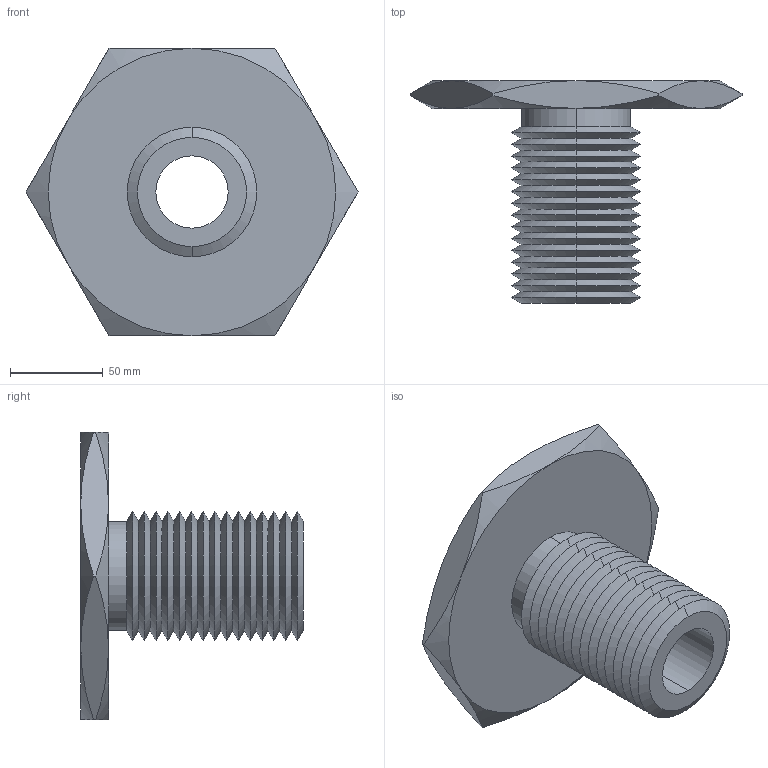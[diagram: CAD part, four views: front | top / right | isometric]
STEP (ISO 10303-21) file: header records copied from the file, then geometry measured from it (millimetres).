
FILE_DESCRIPTION (( 'STEP AP203' ), '1' );
FILE_NAME ('63302.W5275_M39x4.step', '2013-12-08T11:53:12', ( 'User' ), ( '' ), 'SwSTEP 2.0', 'SolidWorks 2009', '' );
FILE_SCHEMA (( 'CONFIG_CONTROL_DESIGN' ));
Length unit declared in the file: millimetre
Products named in the file (1): 63302.W5275_M39x4
Bounding box: 178.98 x 120 x 155 mm (x, y, z)
Volume: 496674.5 mm3; surface area: 100078.3 mm2
Topology: 1 solids, 1 shells, 87 faces, 178 edges, 94 vertices
Faces by surface type: cone 74, plane 9, cylinder 4
Entity records: 2479 total; most frequent: CARTESIAN_POINT 584, DIRECTION 412, ORIENTED_EDGE 356, EDGE_CURVE 178, AXIS2_PLACEMENT_3D 170, VERTEX_POINT 94, EDGE_LOOP 90, ADVANCED_FACE 87
